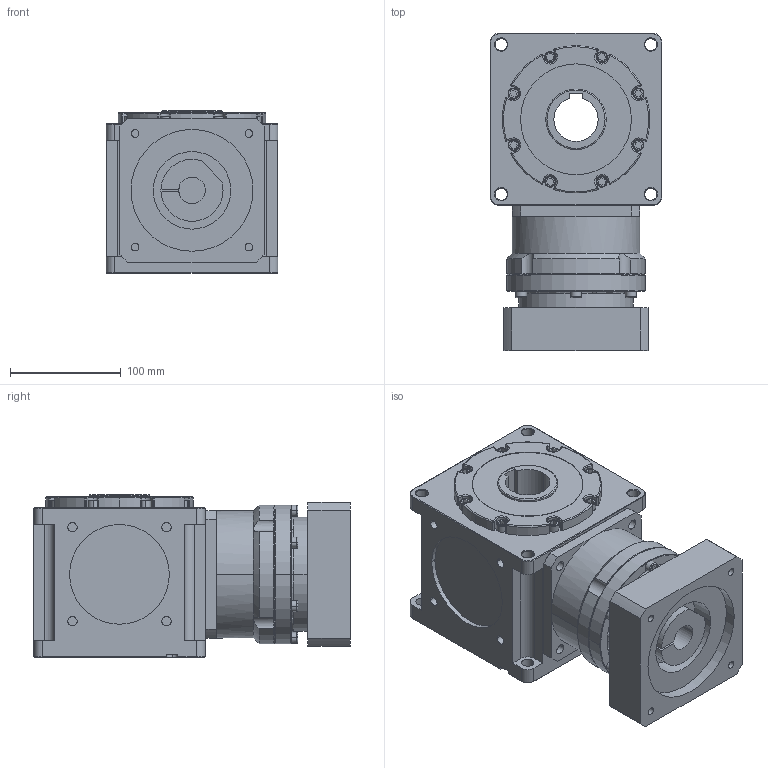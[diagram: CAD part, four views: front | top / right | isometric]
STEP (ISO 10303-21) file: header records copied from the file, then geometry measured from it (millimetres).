
FILE_DESCRIPTION (( 'STEP AP214' ), '1' );
FILE_NAME ('CCW155A-L1(6~20)-CR 24-110-145-M8.STEP', '2025-05-24T07:19:29', ( '微软用户' ), ( '微软中国' ), 'SwSTEP 2.0', 'SolidWorks 2024', '' );
FILE_SCHEMA (( 'AUTOMOTIVE_DESIGN' ));
Length unit declared in the file: millimetre
Products named in the file (3): CCW155A-L1(6~20)-CR 24-110-145-M8; CCW155A-002-CR箱体; VRB-115-L1-S2-P1 24-110-145-M8
Assembly tree (2 placements, depth 2):
  CCW155A-L1(6~20)-CR 24-110-145-M8
    CCW155A-002-CR箱体
    VRB-115-L1-S2-P1 24-110-145-M8
Bounding box: 155 x 286 x 147 mm (x, y, z)
Volume: 4514334.3 mm3; surface area: 304491.2 mm2
Topology: 2 solids, 2 shells, 624 faces, 1486 edges, 908 vertices
Faces by surface type: plane 248, cylinder 232, cone 67, torus 61, sphere 16
Entity records: 18446 total; most frequent: CARTESIAN_POINT 3508, DIRECTION 3360, ORIENTED_EDGE 2936, EDGE_CURVE 1468, AXIS2_PLACEMENT_3D 1310, VERTEX_POINT 908, LINE 740, VECTOR 740
